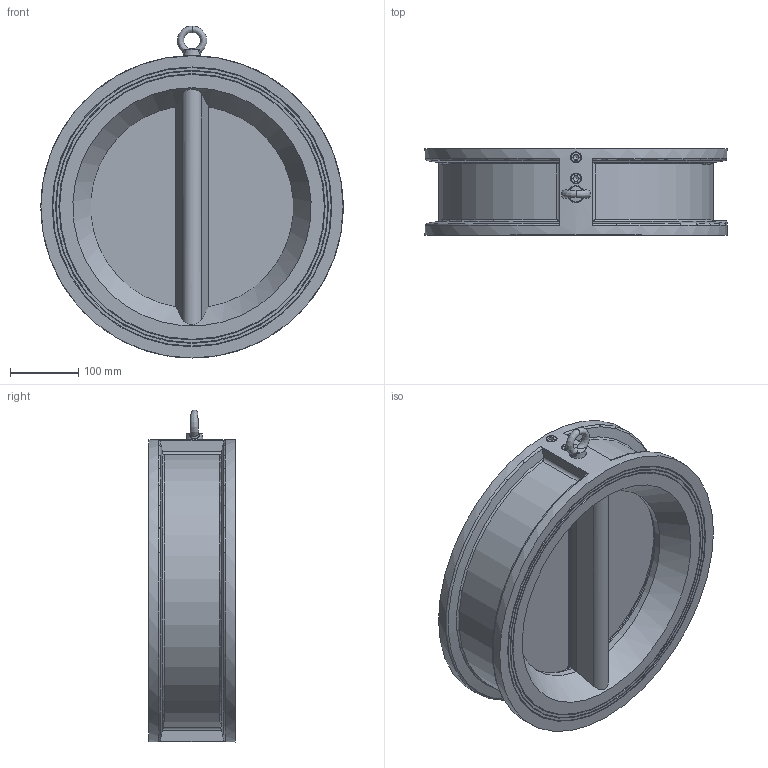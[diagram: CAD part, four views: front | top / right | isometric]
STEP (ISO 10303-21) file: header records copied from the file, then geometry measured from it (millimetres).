
FILE_DESCRIPTION (( 'STEP AP203' ), '1' );
FILE_NAME ('5306 DN350 ×°Åä PN16.STEP', '2025-07-22T02:39:20', ( '' ), ( '' ), 'SwSTEP 2.0', 'SolidWorks 2018', '' );
FILE_SCHEMA (( 'CONFIG_CONTROL_DESIGN' ));
Length unit declared in the file: millimetre
Products named in the file (7): GB╱T 825-1988[吊环螺钉M10]_M10; 350蝶; 350詠啣; GB╱T 77-2007[内六角平端紧定螺钉M16×16]_M16×16; 5306 DN350 蚾饜 PN16; 5306 DN350 概粣; 5306 DN350 概极
Assembly tree (11 placements, depth 2):
  5306 DN350 蚾饜 PN16
    5306 DN350 概极
    350蝶
    5306 DN350 概粣  x2
    GB╱T 77-2007[内六角平端紧定螺钉M16×16]_M16×16  x4
    GB╱T 825-1988[吊环螺钉M10]_M10
    350詠啣  x2
Bounding box: 444 x 127 x 487.6 mm (x, y, z)
Volume: 8024654.4 mm3; surface area: 914095.4 mm2
Topology: 12 solids, 12 shells, 270 faces, 651 edges, 405 vertices
Faces by surface type: plane 130, cylinder 64, cone 44, bspline 20, torus 12
Full cylindrical faces by diameter (mm): 8.5 x1, 10 x1, 14 x6, 14.6 x4, 15 x1, 16 x4, 40 x4, 360 x1, 444 x1
Entity records: 8552 total; most frequent: CARTESIAN_POINT 3955, DIRECTION 753, ORIENTED_EDGE 718, EDGE_CURVE 359, AXIS2_PLACEMENT_3D 314, EDGE_LOOP 255, VERTEX_POINT 252, FACE_OUTER_BOUND 199
